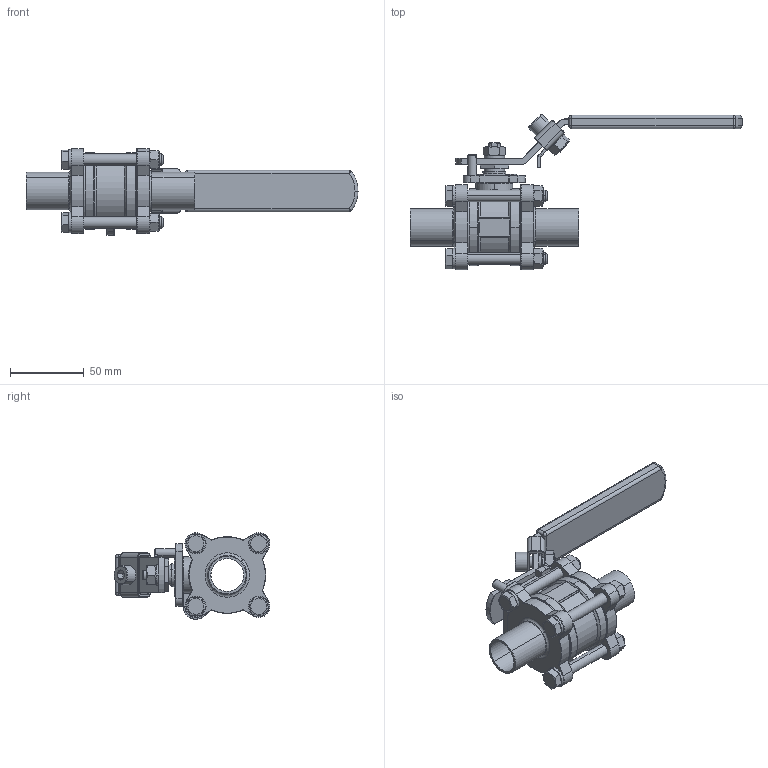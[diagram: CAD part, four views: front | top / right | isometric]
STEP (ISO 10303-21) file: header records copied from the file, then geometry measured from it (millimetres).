
FILE_DESCRIPTION (( 'STEP AP203' ), '1' );
FILE_NAME ('BAV-W-1.0.STEP', '2019-06-17T06:09:41', ( '' ), ( '' ), 'SwSTEP 2.0', 'SolidWorks 2014', '' );
FILE_SCHEMA (( 'CONFIG_CONTROL_DESIGN' ));
Length unit declared in the file: millimetre
Products named in the file (21): 2WAY-BODY-1.0; 2WAY-BOLT-1.0; 2WAY-BOLT NUT-1.0; 2WAY-HANDLE WASHERS-C-0.5; 2WAY-STOP PIN-1.0; 2WAY-HANDLE-1.0-3; 2WAY-HANDLE-1.0-2; 2WAY-HANDLE-1.0; 2WAY-BALL-1.0; 2WAY-STEM-1.0; 2WAY-GLAND-1.0; 2WAY-CAP-W-1.0; 2WAY-HANDLE-1.0-3-1; 2WAY-STEM PACKINGS-1.0; 2WAY-HANDLE NUT-0.5-.75; BAV-W-1.0; 2WAY-HANDLE-1.0-1; 2WAY-GASKET-1.0; 2WAY-BOLT WASHERS-1.0; 2WAY-SEAT-1.0; 2WAY-THRUST WASHER-1.0
Assembly tree (32 placements, depth 2):
  BAV-W-1.0
    2WAY-BODY-1.0
    2WAY-SEAT-1.0  x2
    2WAY-STEM-1.0
    2WAY-THRUST WASHER-1.0
    2WAY-BALL-1.0
    2WAY-GASKET-1.0  x2
    2WAY-BOLT NUT-1.0  x4
    2WAY-BOLT WASHERS-1.0  x4
    2WAY-BOLT-1.0  x4
    2WAY-GLAND-1.0
    2WAY-STOP PIN-1.0
    2WAY-STEM PACKINGS-1.0
    2WAY-HANDLE-1.0-3
    2WAY-HANDLE-1.0-3-1
    2WAY-HANDLE-1.0
    2WAY-HANDLE-1.0-1
    2WAY-HANDLE-1.0-2
    2WAY-HANDLE WASHERS-C-0.5
    2WAY-HANDLE NUT-0.5-.75
    2WAY-CAP-W-1.0  x2
Bounding box: 224.41 x 105.17 x 58.71 mm (x, y, z)
Volume: 173337.7 mm3; surface area: 107452.1 mm2
Topology: 32 solids, 32 shells, 1072 faces, 2450 edges, 1406 vertices
Faces by surface type: cylinder 376, plane 243, torus 207, cone 137, bspline 62, sphere 47
Entity records: 27213 total; most frequent: CARTESIAN_POINT 6174, DIRECTION 4262, ORIENTED_EDGE 3664, EDGE_CURVE 1832, AXIS2_PLACEMENT_3D 1819, VERTEX_POINT 1061, CIRCLE 1019, EDGE_LOOP 883
